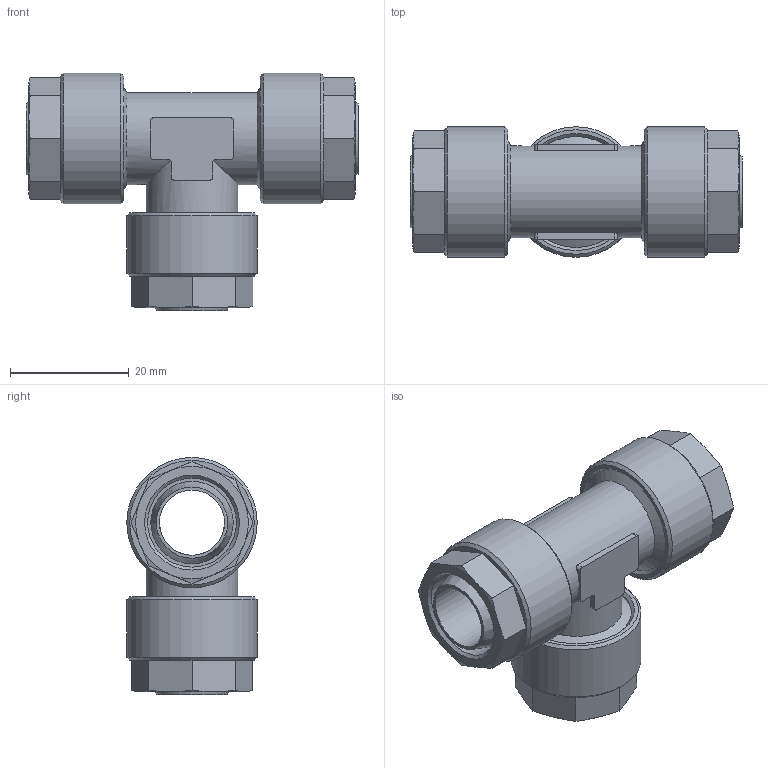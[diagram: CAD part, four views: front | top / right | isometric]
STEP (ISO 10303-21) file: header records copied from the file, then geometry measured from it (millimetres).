
FILE_DESCRIPTION(/* description */ (''),/* implementation_level */ '2;1');
FILE_NAME(/* name */ '12310_309_1512,5_15.08.17',/* time_stamp */ '2017-08-15T07:50:14+02:00',/* author */ (''),/* organization */ (''),/* preprocessor_version */ 'ST-DEVELOPER v16.5',/* originating_system */ 'HiCAD 2016 2102.2 Build 618',/* authorisation */ '');
FILE_SCHEMA (('AUTOMOTIVE_DESIGN { 1 0 10303 214 1 1 1 1 }'));
Length unit declared in the file: millimetre
Products named in the file (5): Root; 17009; R12310
Assembly tree (4 placements, depth 2):
  Root
    17009
    17009
    17009
    R12310
Bounding box: 56 x 22 x 40 mm (x, y, z)
Volume: 13952.1 mm3; surface area: 14010.9 mm2
Topology: 4 solids, 4 shells, 146 faces, 352 edges, 225 vertices
Faces by surface type: plane 60, cone 48, cylinder 35, torus 3
Full cylindrical faces by diameter (mm): 11 x2, 13.2 x3, 15 x3, 15.5 x2, 18.733 x3, 20 x3, 22 x3
Entity records: 9439 total; most frequent: CARTESIAN_POINT 3321, DIRECTION 730, PRESENTATION_STYLE_ASSIGNMENT 572, COLOUR_RGB 569, DRAUGHTING_PRE_DEFINED_CURVE_FONT 568, CURVE_STYLE 568, OVER_RIDING_STYLED_ITEM 568, ORIENTED_EDGE 568
